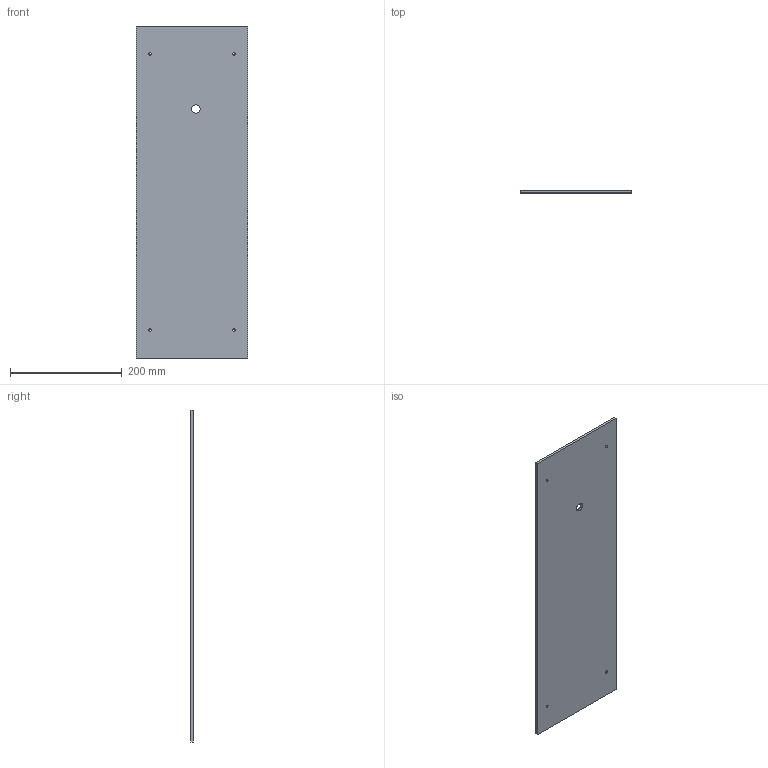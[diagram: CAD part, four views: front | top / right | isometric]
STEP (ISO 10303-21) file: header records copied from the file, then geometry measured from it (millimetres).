
FILE_DESCRIPTION(('Open CASCADE Model'),'2;1');
FILE_NAME('Open CASCADE Shape Model','2026-11-14T16:01:30',('Author'),( 'Open CASCADE'),'Open CASCADE STEP processor 7.9','Open CASCADE 7.9' ,'Unknown');
FILE_SCHEMA(('AUTOMOTIVE_DESIGN { 1 0 10303 214 1 1 1 1 }'));
Length unit declared in the file: millimetre
Products named in the file (1): Open CASCADE STEP translator 7.9 73
Bounding box: 200 x 4 x 594 mm (x, y, z)
Volume: 474238.7 mm3; surface area: 243886 mm2
Topology: 1 solids, 1 shells, 11 faces, 27 edges, 18 vertices
Faces by surface type: plane 6, cylinder 5
Full cylindrical faces by diameter (mm): 4.5 x4, 15 x1
Entity records: 712 total; most frequent: DIRECTION 115, CARTESIAN_POINT 111, LINE 61, VECTOR 61, ORIENTED_EDGE 54, PCURVE 54, DEFINITIONAL_REPRESENTATION 54, EDGE_CURVE 27
